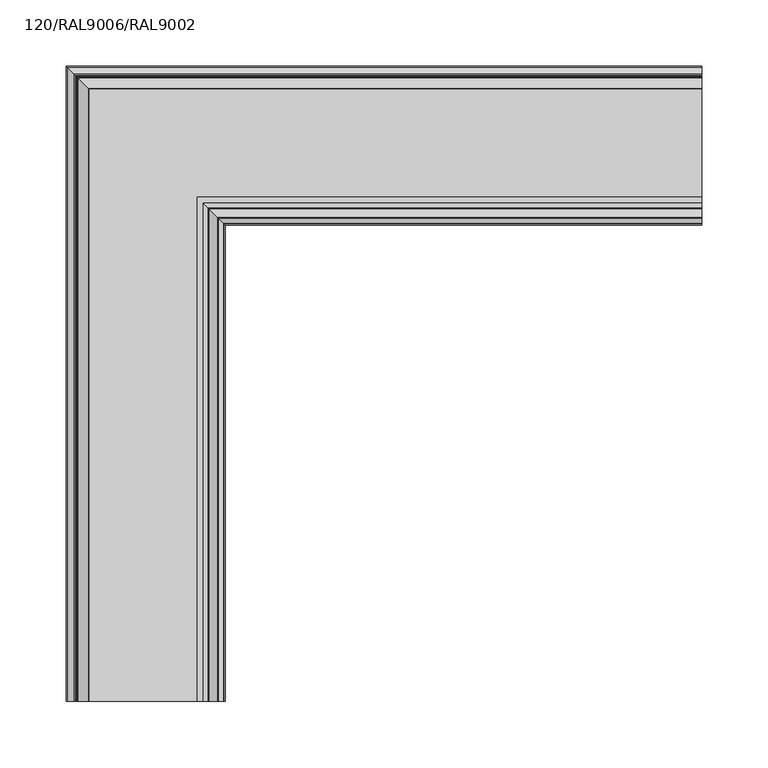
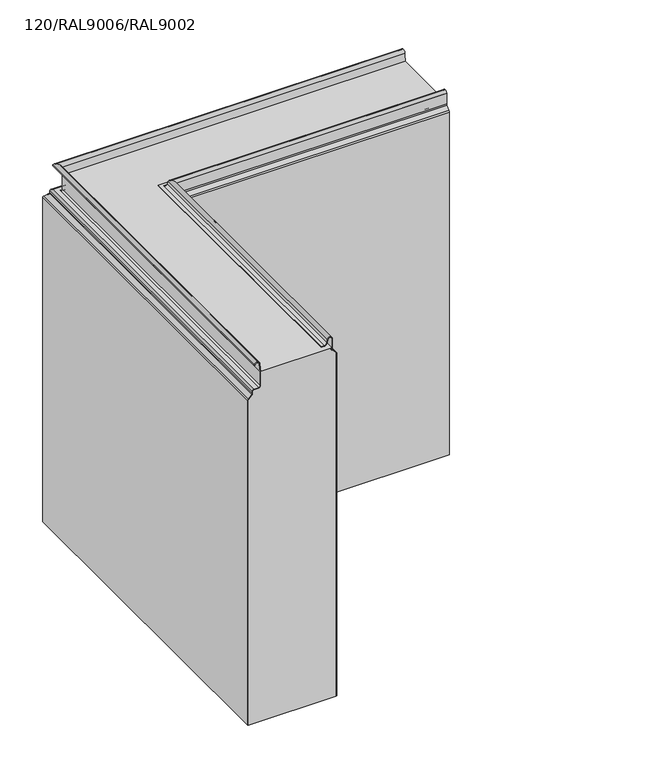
"""IFC4 building model written with IfcOpenShell, lengths in millimetres: plate geometry, TR_C_H_FHL_Corner_Tr_B_cut_TONGUE : 120/RAL9006/RAL9002."""

from ifc_helpers import new_model, si_unit, frame, origin, place, context, project, spatial, polyline, circle_curve, ellipse_curve, source, transform, mapped, element, save
from ifc_brep_helpers import plane_surface, cylinder_surface, revolved_surface, advanced_brep


def plate_120_ral9006_ral9002_39290fb2(model_context):
    return source(origin(), model_context, "Body", "AdvancedBrep", [
        advanced_brep(
        [(240.0, -17.4455763, 500.0), (240.0, -113.2, 500.0), (240.0, -113.2, 498.1), (240.0, -114.1665476, 495.7665476), (240.0, -118.5556349, 491.3774603), (240.0, -119.2, 489.8218254), (240.0, -119.2, 0.0), (240.0, -0.8, 0.0), (240.0, -0.8, 463.4370797), (240.0, -1.3564971, 464.7805826), (240.0, -6.179899, 469.6039845), (240.0, -7.0, 471.5838835), (240.0, -7.0, 474.4), (240.0, -8.9, 476.3), (240.0, -14.8, 476.3), (240.0, -17.6, 479.1), (240.0, -17.6, 498.2349288), (-222.5544237, -17.4455763, 500.0), (-222.5544237, -480.0, 500.0), (-126.8, -480.0, 500.0), (-126.8, -113.2, 500.0), (-222.4, -480.0, 498.2349288), (-222.4, -480.0, 479.1), (-225.2, -480.0, 476.3), (-231.1, -480.0, 476.3), (-233.0, -480.0, 474.4), (-233.0, -480.0, 471.5838835), (-233.820101, -480.0, 469.6039845), (-238.6435029, -480.0, 464.7805826), (-239.2, -480.0, 463.4370797), (-239.2, -480.0, 0.0), (-120.8, -480.0, 0.0), (-120.8, -480.0, 489.8218254), (-121.4443651, -480.0, 491.3774603), (-125.8334524, -480.0, 495.7665476), (-126.8, -480.0, 498.1), (-126.8, -113.2, 498.1), (-125.8334524, -114.1665476, 495.7665476), (-121.4443651, -118.5556349, 491.3774603), (-120.8, -119.2, 489.8218254), (-239.2, -0.8, 463.4370797), (-238.6435029, -1.3564971, 464.7805826), (-233.820101, -6.179899, 469.6039845), (-233.0, -7.0, 471.5838835), (-233.0, -7.0, 474.4), (-231.1, -8.9, 476.3), (-225.2, -14.8, 476.3), (-222.4, -17.6, 479.1), (-222.4, -17.6, 498.2349288), (-120.8, -119.2, 0.0), (-239.2, -0.8, 0.0)],
        [
            (0, 1),
            (1, 2),
            (2, 3, circle_curve(frame((240.0, -116.5, 498.1), z_axis=(-1.0, 0.0, 0.0), x_axis=(0.0, -1.0, 0.0)), 3.3)),
            (3, 4),
            (4, 5, circle_curve(frame((240.0, -117.0, 489.8218254), z_axis=(1.0, 0.0, 0.0), x_axis=(0.0, -1.0, 0.0)), 2.2)),
            (5, 6),
            (6, 7),
            (7, 8),
            (8, 9, circle_curve(frame((240.0, -2.7, 463.4370797), z_axis=(1.0, 0.0, 0.0), x_axis=(0.0, -1.0, 0.0)), 1.9)),
            (9, 10),
            (10, 11, circle_curve(frame((240.0, -4.2, 471.5838835), z_axis=(-1.0, 0.0, 0.0), x_axis=(0.0, -1.0, 0.0)), 2.8)),
            (11, 12),
            (12, 13, circle_curve(frame((240.0, -8.9, 474.4), z_axis=(1.0, 0.0, 0.0), x_axis=(0.0, -1.0, 0.0)), 1.9)),
            (13, 14),
            (14, 15, circle_curve(frame((240.0, -14.8, 479.1), z_axis=(-1.0, 0.0, 0.0), x_axis=(0.0, -1.0, 0.0)), 2.8)),
            (15, 16),
            (16, 0),
            (0, 17),
            (17, 18),
            (18, 19),
            (19, 20),
            (20, 1),
            (18, 21),
            (21, 22),
            (22, 23, circle_curve(frame((-225.2, -480.0, 479.1), z_axis=(0.0, 1.0, 0.0), x_axis=(1.0, 0.0, 0.0)), 2.8)),
            (23, 24),
            (24, 25, circle_curve(frame((-231.1, -480.0, 474.4), z_axis=(0.0, -1.0, 0.0), x_axis=(1.0, 0.0, 0.0)), 1.9)),
            (25, 26),
            (26, 27, circle_curve(frame((-235.8, -480.0, 471.5838835), z_axis=(0.0, 1.0, 0.0), x_axis=(1.0, 0.0, 0.0)), 2.8)),
            (27, 28),
            (28, 29, circle_curve(frame((-237.3, -480.0, 463.4370797), z_axis=(0.0, -1.0, 0.0), x_axis=(1.0, 0.0, 0.0)), 1.9)),
            (29, 30),
            (30, 31),
            (31, 32),
            (32, 33, circle_curve(frame((-123.0, -480.0, 489.8218254), z_axis=(0.0, -1.0, 0.0), x_axis=(1.0, 0.0, 0.0)), 2.2)),
            (33, 34),
            (34, 35, circle_curve(frame((-123.5, -480.0, 498.1), z_axis=(0.0, 1.0, 0.0), x_axis=(1.0, 0.0, 0.0)), 3.3)),
            (35, 19),
            (20, 36),
            (36, 2),
            (36, 37, ellipse_curve(frame((-123.5, -116.5, 498.1), z_axis=(-0.7071067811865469, -0.7071067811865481, 0.0), x_axis=(-0.7071067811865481, 0.7071067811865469, 0.0)), 4.6669048, 3.3)),
            (37, 3),
            (37, 38),
            (38, 4),
            (38, 39, ellipse_curve(frame((-123.0, -117.0, 489.8218254), z_axis=(0.7071067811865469, 0.7071067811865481, 0.0), x_axis=(0.7071067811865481, -0.7071067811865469, 0.0)), 3.1112698, 2.2)),
            (39, 5),
            (8, 40),
            (40, 41, ellipse_curve(frame((-237.3, -2.7, 463.4370797), z_axis=(0.7071067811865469, 0.7071067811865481, 0.0), x_axis=(0.7071067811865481, -0.7071067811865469, 0.0)), 2.6870058, 1.9)),
            (41, 9),
            (41, 42),
            (42, 10),
            (42, 43, ellipse_curve(frame((-235.8, -4.2, 471.5838835), z_axis=(-0.7071067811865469, -0.7071067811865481, 0.0), x_axis=(-0.7071067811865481, 0.7071067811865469, 0.0)), 3.959798, 2.8)),
            (43, 11),
            (43, 44),
            (44, 12),
            (44, 45, ellipse_curve(frame((-231.1, -8.9, 474.4), z_axis=(0.7071067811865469, 0.7071067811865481, 0.0), x_axis=(0.7071067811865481, -0.7071067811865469, 0.0)), 2.6870058, 1.9)),
            (45, 13),
            (45, 24),
            (23, 46),
            (46, 14),
            (46, 47, ellipse_curve(frame((-225.2, -14.8, 479.1), z_axis=(-0.7071067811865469, -0.7071067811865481, 0.0), x_axis=(-0.7071067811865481, 0.7071067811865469, 0.0)), 3.959798, 2.8)),
            (47, 15),
            (47, 48),
            (48, 16),
            (48, 17),
            (35, 36),
            (34, 37),
            (33, 38),
            (32, 39),
            (28, 41),
            (40, 29),
            (27, 42),
            (26, 43),
            (25, 44),
            (22, 47),
            (21, 48),
            (39, 49),
            (49, 6),
            (7, 50),
            (50, 40),
            (31, 49),
            (50, 30),
        ],
        [
            plane_surface(frame((240.0, 0.0, 0.0), z_axis=(1.0, 0.0, 0.0), x_axis=(0.0, 0.0, 1.0))),
            plane_surface(frame((240.0, -17.4455763, 500.0), z_axis=(0.0, 0.0, 1.0), x_axis=(-1.0, 0.0, 0.0))),
            plane_surface(frame((-240.0, -480.0, 0.0), z_axis=(0.0, -1.0, 0.0), x_axis=(0.0, 0.0, 1.0))),
            plane_surface(frame((240.0, -113.2, 500.0), z_axis=(0.0, -1.0, 0.0), x_axis=(-1.0, 0.0, 0.0))),
            revolved_surface(polyline([(-126.80000003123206, -119.8, 498.1), (240.0, -119.8, 498.1)]), (240.0, -116.5, 498.1), (-1.0, 0.0, 0.0)),
            plane_surface(frame((240.0, -114.1665476, 495.7665476), z_axis=(0.0, -0.7071067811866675, 0.7071067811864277), x_axis=(-1.0, 0.0, 0.0))),
            cylinder_surface(frame((240.0, -117.0, 489.8218254), z_axis=(1.0, 0.0, 0.0), x_axis=(0.0, -1.0, 0.0)), 2.2),
            cylinder_surface(frame((240.0, -2.7, 463.4370797), z_axis=(1.0, 0.0, 0.0), x_axis=(0.0, -1.0, 0.0)), 1.9),
            plane_surface(frame((240.0, -1.3564971, 464.7805826), z_axis=(0.0, 0.7071067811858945, 0.7071067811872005), x_axis=(-1.0, 0.0, 0.0))),
            revolved_surface(polyline([(-238.60000001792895, -7.0, 471.5838835), (240.0, -7.0, 471.5838835)]), (240.0, -4.2, 471.5838835), (-1.0, 0.0, 0.0)),
            plane_surface(frame((240.0, -7.0, 471.5838835), z_axis=(0.0, 1.0, 0.0), x_axis=(-1.0, 0.0, 0.0))),
            cylinder_surface(frame((240.0, -8.9, 474.4), z_axis=(1.0, 0.0, 0.0), x_axis=(0.0, -1.0, 0.0)), 1.9),
            plane_surface(frame((240.0, -8.9, 476.3), z_axis=(0.0, 0.0, 1.0), x_axis=(-1.0, 0.0, 0.0))),
            revolved_surface(polyline([(-228.00000001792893, -17.6, 479.1), (240.0, -17.6, 479.1)]), (240.0, -14.8, 479.1), (-1.0, 0.0, 0.0)),
            plane_surface(frame((240.0, -17.6, 479.1), z_axis=(0.0, 1.0, 0.0), x_axis=(-1.0, 0.0, 0.0))),
            plane_surface(frame((240.0, -17.6, 498.2349288), z_axis=(0.0, 0.9961946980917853, -0.08715574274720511), x_axis=(-1.0, 0.0, 0.0))),
            plane_surface(frame((-126.8, -113.2, 500.0), z_axis=(1.0, 0.0, 0.0), x_axis=(0.0, -1.0, 0.0))),
            revolved_surface(polyline([(-120.2, -480.0, 498.1), (-120.2, -113.19999996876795, 498.1)]), (-123.5, 0.0, 498.1), (0.0, -1.0, 0.0)),
            plane_surface(frame((-125.8334524, -114.1665476, 495.7665476), z_axis=(0.7071067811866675, 0.0, 0.7071067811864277), x_axis=(0.0, -1.0, 0.0))),
            cylinder_surface(frame((-123.0, 0.0, 489.8218254), z_axis=(0.0, 1.0, 0.0), x_axis=(1.0, 0.0, 0.0)), 2.2),
            cylinder_surface(frame((-237.3, 0.0, 463.4370797), z_axis=(0.0, 1.0, 0.0), x_axis=(1.0, 0.0, 0.0)), 1.9),
            plane_surface(frame((-238.6435029, -1.3564971, 464.7805826), z_axis=(-0.7071067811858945, 0.0, 0.7071067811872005), x_axis=(0.0, -1.0, 0.0))),
            revolved_surface(polyline([(-233.0, -480.0, 471.5838835), (-233.0, -1.399999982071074, 471.5838835)]), (-235.8, 0.0, 471.5838835), (0.0, -1.0, 0.0)),
            plane_surface(frame((-233.0, -7.0, 471.5838835), z_axis=(-1.0, 0.0, 0.0), x_axis=(0.0, -1.0, 0.0))),
            cylinder_surface(frame((-231.1, 0.0, 474.4), z_axis=(0.0, 1.0, 0.0), x_axis=(1.0, 0.0, 0.0)), 1.9),
            revolved_surface(polyline([(-222.39999999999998, -480.0, 479.1), (-222.39999999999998, -11.999999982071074, 479.1)]), (-225.2, 0.0, 479.1), (0.0, -1.0, 0.0)),
            plane_surface(frame((-222.4, -17.6, 479.1), z_axis=(-1.0, 0.0, 0.0), x_axis=(0.0, -1.0, 0.0))),
            plane_surface(frame((-222.4, -17.6, 498.2349288), z_axis=(-0.9961946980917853, 0.0, -0.08715574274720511), x_axis=(0.0, -1.0, 0.0))),
            plane_surface(frame((240.0, -119.2, 489.8218254), z_axis=(0.0, -1.0, 0.0), x_axis=(-1.0, 0.0, 0.0))),
            plane_surface(frame((240.0, -0.8, -484.0006516), z_axis=(0.0, 1.0, 0.0), x_axis=(-1.0, 0.0, 0.0))),
            plane_surface(frame((-120.8, -119.2, 489.8218254), z_axis=(1.0, 0.0, 0.0), x_axis=(0.0, -1.0, 0.0))),
            plane_surface(frame((-239.2, -0.8, -484.0006516), z_axis=(-1.0, 0.0, 0.0), x_axis=(0.0, -1.0, 0.0))),
            plane_surface(frame((240.0, 0.0, 0.0), z_axis=(0.0, 0.0, -1.0), x_axis=(-1.0, 0.0, 0.0))),
        ],
        [
            (0, [[1, 2, 3, 4, 5, 6, 7, 8, 9, 10, 11, 12, 13, 14, 15, 16, 17]]),
            (1, [[-1, 18, 19, 20, 21, 22]]),
            (2, [[-20, 23, 24, 25, 26, 27, 28, 29, 30, 31, 32, 33, 34, 35, 36, 37, 38]]),
            (3, [[-2, -22, 39, 40]]),
            (4, [[-3, -40, 41, 42]]),
            (5, [[-4, -42, 43, 44]]),
            (6, [[-5, -44, 45, 46]]),
            (7, [[-9, 47, 48, 49]]),
            (8, [[-10, -49, 50, 51]]),
            (9, [[-11, -51, 52, 53]]),
            (10, [[-12, -53, 54, 55]]),
            (11, [[-13, -55, 56, 57]]),
            (12, [[-14, -57, 58, -26, 59, 60]]),
            (13, [[-15, -60, 61, 62]]),
            (14, [[-16, -62, 63, 64]]),
            (15, [[-17, -64, 65, -18]]),
            (16, [[-21, -38, 66, -39]]),
            (17, [[-37, 67, -41, -66]]),
            (18, [[-36, 68, -43, -67]]),
            (19, [[-35, 69, -45, -68]]),
            (20, [[-31, 70, -48, 71]]),
            (21, [[-30, 72, -50, -70]]),
            (22, [[-29, 73, -52, -72]]),
            (23, [[-28, 74, -54, -73]]),
            (24, [[-27, -58, -56, -74]]),
            (25, [[-25, 75, -61, -59]]),
            (26, [[-24, 76, -63, -75]]),
            (27, [[-19, -65, -76, -23]]),
            (28, [[-46, 77, 78, -6]]),
            (29, [[-47, -8, 79, 80]]),
            (30, [[-69, -34, 81, -77]]),
            (31, [[-71, -80, 82, -32]]),
            (32, [[-7, -78, -81, -33, -82, -79]]),
        ],
    ),
        advanced_brep(
        [(240.0, 0.0, 463.4370797), (240.0, -0.7908117, 465.346268), (240.0, -5.6142136, 470.1696699), (240.0, -6.2, 471.5838835), (240.0, -6.2, 474.4), (240.0, -8.9, 477.1), (240.0, -14.8, 477.1), (240.0, -16.8, 479.1), (240.0, -16.8, 498.2), (240.0, -15.7082379, 510.6788984), (240.0, -9.4947554, 511.4418181), (240.0, -9.1851412, 510.5426332), (240.0, -8.4287263, 510.8030877), (240.0, -8.7383405, 511.7022726), (240.0, -16.5051936, 510.748623), (240.0, -17.6, 498.2349288), (240.0, -17.6, 479.1), (240.0, -14.8, 476.3), (240.0, -8.9, 476.3), (240.0, -7.0, 474.4), (240.0, -7.0, 471.5838835), (240.0, -6.179899, 469.6039845), (240.0, -1.3564971, 464.7805826), (240.0, -0.8, 463.4370797), (240.0, -0.8, 0.0), (240.0, 0.0, 0.0), (-239.2, -480.0, 463.4370797), (-238.6435029, -480.0, 464.7805826), (-233.820101, -480.0, 469.6039845), (-233.0, -480.0, 471.5838835), (-233.0, -480.0, 474.4), (-231.1, -480.0, 476.3), (-225.2, -480.0, 476.3), (-222.4, -480.0, 479.1), (-222.4, -480.0, 498.2349288), (-223.4948064, -480.0, 510.748623), (-231.2616595, -480.0, 511.7022726), (-231.5712737, -480.0, 510.8030877), (-230.8148588, -480.0, 510.5426332), (-230.5052446, -480.0, 511.4418181), (-224.2917621, -480.0, 510.6788984), (-223.2, -480.0, 498.2), (-223.2, -480.0, 479.1), (-225.2, -480.0, 477.1), (-231.1, -480.0, 477.1), (-233.8, -480.0, 474.4), (-233.8, -480.0, 471.5838835), (-234.3857864, -480.0, 470.1696699), (-239.2091883, -480.0, 465.346268), (-240.0, -480.0, 463.4370797), (-240.0, -480.0, 0.0), (-239.2, -480.0, 0.0), (-240.0, 0.0, 463.4370797), (-239.2091883, -0.7908117, 465.346268), (-234.3857864, -5.6142136, 470.1696699), (-233.8, -6.2, 471.5838835), (-233.8, -6.2, 474.4), (-231.1, -8.9, 477.1), (-225.2, -14.8, 477.1), (-223.2, -16.8, 479.1), (-223.2, -16.8, 498.2), (-224.2917621, -15.7082379, 510.6788984), (-230.5052446, -9.4947554, 511.4418181), (-230.8148588, -9.1851412, 510.5426332), (-231.5712737, -8.4287263, 510.8030877), (-231.2616595, -8.7383405, 511.7022726), (-223.4948064, -16.5051936, 510.748623), (-222.4, -17.6, 498.2349288), (-222.4, -17.6, 479.1), (-225.2, -14.8, 476.3), (-231.1, -8.9, 476.3), (-233.0, -7.0, 474.4), (-233.0, -7.0, 471.5838835), (-233.820101, -6.179899, 469.6039845), (-238.6435029, -1.3564971, 464.7805826), (-239.2, -0.8, 463.4370797), (-239.2, -0.8, 0.0), (-240.0, 0.0, 0.0)],
        [
            (0, 1, circle_curve(frame((240.0, -2.7, 463.4370797), z_axis=(1.0, 0.0, 0.0), x_axis=(0.0, -1.0, 0.0)), 2.7)),
            (1, 2),
            (2, 3, circle_curve(frame((240.0, -4.2, 471.5838835), z_axis=(-1.0, 0.0, 0.0), x_axis=(0.0, -1.0, 0.0)), 2.0)),
            (3, 4),
            (4, 5, circle_curve(frame((240.0, -8.9, 474.4), z_axis=(1.0, 0.0, 0.0), x_axis=(0.0, -1.0, 0.0)), 2.7)),
            (5, 6),
            (6, 7, circle_curve(frame((240.0, -14.8, 479.1), z_axis=(-1.0, 0.0, 0.0), x_axis=(0.0, -1.0, 0.0)), 2.0)),
            (7, 8),
            (8, 9),
            (9, 10, circle_curve(frame((240.0, -12.5204148, 510.4), z_axis=(-1.0, 0.0, 0.0), x_axis=(0.0, -1.0, 0.0)), 3.2)),
            (10, 11),
            (11, 12),
            (12, 13),
            (13, 14, circle_curve(frame((240.0, -12.5204148, 510.4), z_axis=(1.0, 0.0, 0.0), x_axis=(0.0, -1.0, 0.0)), 4.0)),
            (14, 15),
            (15, 16),
            (16, 17, circle_curve(frame((240.0, -14.8, 479.1), z_axis=(1.0, 0.0, 0.0), x_axis=(0.0, -1.0, 0.0)), 2.8)),
            (17, 18),
            (18, 19, circle_curve(frame((240.0, -8.9, 474.4), z_axis=(-1.0, 0.0, 0.0), x_axis=(0.0, -1.0, 0.0)), 1.9)),
            (19, 20),
            (20, 21, circle_curve(frame((240.0, -4.2, 471.5838835), z_axis=(1.0, 0.0, 0.0), x_axis=(0.0, -1.0, 0.0)), 2.8)),
            (21, 22),
            (22, 23, circle_curve(frame((240.0, -2.7, 463.4370797), z_axis=(-1.0, 0.0, 0.0), x_axis=(0.0, -1.0, 0.0)), 1.9)),
            (23, 24),
            (24, 25),
            (25, 0),
            (26, 27, circle_curve(frame((-237.3, -480.0, 463.4370797), z_axis=(0.0, 1.0, 0.0), x_axis=(1.0, 0.0, 0.0)), 1.9)),
            (27, 28),
            (28, 29, circle_curve(frame((-235.8, -480.0, 471.5838835), z_axis=(0.0, -1.0, 0.0), x_axis=(1.0, 0.0, 0.0)), 2.8)),
            (29, 30),
            (30, 31, circle_curve(frame((-231.1, -480.0, 474.4), z_axis=(0.0, 1.0, 0.0), x_axis=(1.0, 0.0, 0.0)), 1.9)),
            (31, 32),
            (32, 33, circle_curve(frame((-225.2, -480.0, 479.1), z_axis=(0.0, -1.0, 0.0), x_axis=(1.0, 0.0, 0.0)), 2.8)),
            (33, 34),
            (34, 35),
            (35, 36, circle_curve(frame((-227.4795852, -480.0, 510.4), z_axis=(0.0, -1.0, 0.0), x_axis=(1.0, 0.0, 0.0)), 4.0)),
            (36, 37),
            (37, 38),
            (38, 39),
            (39, 40, circle_curve(frame((-227.4795852, -480.0, 510.4), z_axis=(0.0, 1.0, 0.0), x_axis=(1.0, 0.0, 0.0)), 3.2)),
            (40, 41),
            (41, 42),
            (42, 43, circle_curve(frame((-225.2, -480.0, 479.1), z_axis=(0.0, 1.0, 0.0), x_axis=(1.0, 0.0, 0.0)), 2.0)),
            (43, 44),
            (44, 45, circle_curve(frame((-231.1, -480.0, 474.4), z_axis=(0.0, -1.0, 0.0), x_axis=(1.0, 0.0, 0.0)), 2.7)),
            (45, 46),
            (46, 47, circle_curve(frame((-235.8, -480.0, 471.5838835), z_axis=(0.0, 1.0, 0.0), x_axis=(1.0, 0.0, 0.0)), 2.0)),
            (47, 48),
            (48, 49, circle_curve(frame((-237.3, -480.0, 463.4370797), z_axis=(0.0, -1.0, 0.0), x_axis=(1.0, 0.0, 0.0)), 2.7)),
            (49, 50),
            (50, 51),
            (51, 26),
            (0, 52),
            (52, 53, ellipse_curve(frame((-237.3, -2.7, 463.4370797), z_axis=(0.7071067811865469, 0.7071067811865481, 0.0), x_axis=(0.7071067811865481, -0.7071067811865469, 0.0)), 3.8183766, 2.7)),
            (53, 1),
            (53, 54),
            (54, 2),
            (54, 55, ellipse_curve(frame((-235.8, -4.2, 471.5838835), z_axis=(-0.7071067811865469, -0.7071067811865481, 0.0), x_axis=(-0.7071067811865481, 0.7071067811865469, 0.0)), 2.8284271, 2.0)),
            (55, 3),
            (55, 56),
            (56, 4),
            (56, 57, ellipse_curve(frame((-231.1, -8.9, 474.4), z_axis=(0.7071067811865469, 0.7071067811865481, 0.0), x_axis=(0.7071067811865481, -0.7071067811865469, 0.0)), 3.8183766, 2.7)),
            (57, 5),
            (57, 44),
            (43, 58),
            (58, 6),
            (58, 59, ellipse_curve(frame((-225.2, -14.8, 479.1), z_axis=(-0.7071067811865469, -0.7071067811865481, 0.0), x_axis=(-0.7071067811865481, 0.7071067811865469, 0.0)), 2.8284271, 2.0)),
            (59, 7),
            (59, 60),
            (60, 8),
            (60, 61),
            (61, 9),
            (61, 62, ellipse_curve(frame((-227.4795852, -12.5204148, 510.4), z_axis=(-0.7071067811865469, -0.7071067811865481, 0.0), x_axis=(-0.7071067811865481, 0.7071067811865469, 0.0)), 4.5254834, 3.2)),
            (62, 10),
            (62, 63),
            (63, 11),
            (63, 64),
            (64, 12),
            (64, 65),
            (65, 13),
            (65, 66, ellipse_curve(frame((-227.4795852, -12.5204148, 510.4), z_axis=(0.7071067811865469, 0.7071067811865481, 0.0), x_axis=(0.7071067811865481, -0.7071067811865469, 0.0)), 5.6568542, 4.0)),
            (66, 14),
            (66, 67),
            (67, 15),
            (67, 68),
            (68, 16),
            (68, 69, ellipse_curve(frame((-225.2, -14.8, 479.1), z_axis=(0.7071067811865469, 0.7071067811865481, 0.0), x_axis=(0.7071067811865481, -0.7071067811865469, 0.0)), 3.959798, 2.8)),
            (69, 17),
            (69, 32),
            (31, 70),
            (70, 18),
            (70, 71, ellipse_curve(frame((-231.1, -8.9, 474.4), z_axis=(-0.7071067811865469, -0.7071067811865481, 0.0), x_axis=(-0.7071067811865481, 0.7071067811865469, 0.0)), 2.6870058, 1.9)),
            (71, 19),
            (71, 72),
            (72, 20),
            (72, 73, ellipse_curve(frame((-235.8, -4.2, 471.5838835), z_axis=(0.7071067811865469, 0.7071067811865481, 0.0), x_axis=(0.7071067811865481, -0.7071067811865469, 0.0)), 3.959798, 2.8)),
            (73, 21),
            (73, 74),
            (74, 22),
            (74, 75, ellipse_curve(frame((-237.3, -2.7, 463.4370797), z_axis=(-0.7071067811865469, -0.7071067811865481, 0.0), x_axis=(-0.7071067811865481, 0.7071067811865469, 0.0)), 2.6870058, 1.9)),
            (75, 23),
            (48, 53),
            (52, 49),
            (47, 54),
            (46, 55),
            (45, 56),
            (42, 59),
            (41, 60),
            (40, 61),
            (39, 62),
            (38, 63),
            (37, 64),
            (36, 65),
            (35, 66),
            (34, 67),
            (33, 68),
            (30, 71),
            (29, 72),
            (28, 73),
            (27, 74),
            (26, 75),
            (75, 76),
            (76, 24),
            (25, 77),
            (77, 52),
            (51, 76),
            (77, 50),
        ],
        [
            plane_surface(frame((240.0, 0.0, 0.0), z_axis=(1.0, 0.0, 0.0), x_axis=(0.0, 0.0, 1.0))),
            plane_surface(frame((-240.0, -480.0, 0.0), z_axis=(0.0, -1.0, 0.0), x_axis=(0.0, 0.0, 1.0))),
            cylinder_surface(frame((240.0, -2.7, 463.4370797), z_axis=(1.0, 0.0, 0.0), x_axis=(0.0, -1.0, 0.0)), 2.7),
            plane_surface(frame((240.0, -0.7908117, 465.346268), z_axis=(0.0, 0.7071067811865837, 0.7071067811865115), x_axis=(-1.0, 0.0, 0.0))),
            revolved_surface(polyline([(-237.7999999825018, -6.2, 471.5838835), (240.0, -6.2, 471.5838835)]), (240.0, -4.2, 471.5838835), (-1.0, 0.0, 0.0)),
            plane_surface(frame((240.0, -6.2, 471.5838835), z_axis=(0.0, 1.0, 0.0), x_axis=(-1.0, 0.0, 0.0))),
            cylinder_surface(frame((240.0, -8.9, 474.4), z_axis=(1.0, 0.0, 0.0), x_axis=(0.0, -1.0, 0.0)), 2.7),
            plane_surface(frame((240.0, -8.9, 477.1), z_axis=(0.0, 0.0, 1.0), x_axis=(-1.0, 0.0, 0.0))),
            revolved_surface(polyline([(-227.19999998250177, -16.8, 479.1), (240.0, -16.8, 479.1)]), (240.0, -14.8, 479.1), (-1.0, 0.0, 0.0)),
            plane_surface(frame((240.0, -16.8, 479.1), z_axis=(0.0, 1.0, 0.0), x_axis=(-1.0, 0.0, 0.0))),
            plane_surface(frame((240.0, -16.8, 498.2), z_axis=(0.0, 0.996194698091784, -0.08715574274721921), x_axis=(-1.0, 0.0, 0.0))),
            revolved_surface(polyline([(-230.67958520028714, -15.7204148, 510.4), (240.0, -15.7204148, 510.4)]), (240.0, -12.5204148, 510.4), (-1.0, 0.0, 0.0)),
            plane_surface(frame((240.0, -9.4947554, 511.4418181), z_axis=(0.0, -0.9455185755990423, -0.3255681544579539), x_axis=(-1.0, 0.0, 0.0))),
            plane_surface(frame((240.0, -9.1851412, 510.5426332), z_axis=(0.0, 0.32556815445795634, -0.9455185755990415), x_axis=(-1.0, 0.0, 0.0))),
            plane_surface(frame((240.0, -8.4287263, 510.8030877), z_axis=(0.0, 0.9455185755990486, 0.32556815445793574), x_axis=(-1.0, 0.0, 0.0))),
            cylinder_surface(frame((240.0, -12.5204148, 510.4), z_axis=(1.0, 0.0, 0.0), x_axis=(0.0, -1.0, 0.0)), 4.0),
            plane_surface(frame((240.0, -16.5051936, 510.748623), z_axis=(0.0, -0.9961946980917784, 0.087155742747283), x_axis=(-1.0, 0.0, 0.0))),
            plane_surface(frame((240.0, -17.6, 498.2349288), z_axis=(0.0, -1.0, 0.0), x_axis=(-1.0, 0.0, 0.0))),
            cylinder_surface(frame((240.0, -14.8, 479.1), z_axis=(1.0, 0.0, 0.0), x_axis=(0.0, -1.0, 0.0)), 2.8),
            plane_surface(frame((240.0, -14.8, 476.3), z_axis=(0.0, 0.0, -1.0), x_axis=(-1.0, 0.0, 0.0))),
            revolved_surface(polyline([(-233.0000000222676, -10.8, 474.4), (240.0, -10.8, 474.4)]), (240.0, -8.9, 474.4), (-1.0, 0.0, 0.0)),
            plane_surface(frame((240.0, -7.0, 474.4), z_axis=(0.0, -1.0, 0.0), x_axis=(-1.0, 0.0, 0.0))),
            cylinder_surface(frame((240.0, -4.2, 471.5838835), z_axis=(1.0, 0.0, 0.0), x_axis=(0.0, -1.0, 0.0)), 2.8),
            plane_surface(frame((240.0, -6.179899, 469.6039845), z_axis=(0.0, -0.707106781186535, -0.7071067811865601), x_axis=(-1.0, 0.0, 0.0))),
            revolved_surface(polyline([(-239.2000000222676, -4.6, 463.4370797), (240.0, -4.6, 463.4370797)]), (240.0, -2.7, 463.4370797), (-1.0, 0.0, 0.0)),
            cylinder_surface(frame((-237.3, 0.0, 463.4370797), z_axis=(0.0, 1.0, 0.0), x_axis=(1.0, 0.0, 0.0)), 2.7),
            plane_surface(frame((-239.2091883, -0.7908117, 465.346268), z_axis=(-0.7071067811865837, 0.0, 0.7071067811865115), x_axis=(0.0, -1.0, 0.0))),
            revolved_surface(polyline([(-233.8, -480.0, 471.5838835), (-233.8, -2.200000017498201, 471.5838835)]), (-235.8, 0.0, 471.5838835), (0.0, -1.0, 0.0)),
            plane_surface(frame((-233.8, -6.2, 471.5838835), z_axis=(-1.0, 0.0, 0.0), x_axis=(0.0, -1.0, 0.0))),
            cylinder_surface(frame((-231.1, 0.0, 474.4), z_axis=(0.0, 1.0, 0.0), x_axis=(1.0, 0.0, 0.0)), 2.7),
            revolved_surface(polyline([(-223.2, -480.0, 479.1), (-223.2, -12.800000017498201, 479.1)]), (-225.2, 0.0, 479.1), (0.0, -1.0, 0.0)),
            plane_surface(frame((-223.2, -16.8, 479.1), z_axis=(-1.0, 0.0, 0.0), x_axis=(0.0, -1.0, 0.0))),
            plane_surface(frame((-223.2, -16.8, 498.2), z_axis=(-0.996194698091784, 0.0, -0.08715574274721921), x_axis=(0.0, -1.0, 0.0))),
            revolved_surface(polyline([(-224.2795852, -480.0, 510.4), (-224.2795852, -9.32041479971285, 510.4)]), (-227.4795852, 0.0, 510.4), (0.0, -1.0, 0.0)),
            plane_surface(frame((-230.5052446, -9.4947554, 511.4418181), z_axis=(0.9455185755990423, 0.0, -0.3255681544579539), x_axis=(0.0, -1.0, 0.0))),
            plane_surface(frame((-230.8148588, -9.1851412, 510.5426332), z_axis=(-0.32556815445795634, 0.0, -0.9455185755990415), x_axis=(0.0, -1.0, 0.0))),
            plane_surface(frame((-231.5712737, -8.4287263, 510.8030877), z_axis=(-0.9455185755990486, 0.0, 0.32556815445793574), x_axis=(0.0, -1.0, 0.0))),
            cylinder_surface(frame((-227.4795852, 0.0, 510.4), z_axis=(0.0, 1.0, 0.0), x_axis=(1.0, 0.0, 0.0)), 4.0),
            plane_surface(frame((-223.4948064, -16.5051936, 510.748623), z_axis=(0.9961946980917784, 0.0, 0.087155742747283), x_axis=(0.0, -1.0, 0.0))),
            plane_surface(frame((-222.4, -17.6, 498.2349288), z_axis=(1.0, 0.0, 0.0), x_axis=(0.0, -1.0, 0.0))),
            cylinder_surface(frame((-225.2, 0.0, 479.1), z_axis=(0.0, 1.0, 0.0), x_axis=(1.0, 0.0, 0.0)), 2.8),
            revolved_surface(polyline([(-229.2, -480.0, 474.4), (-229.2, -6.9999999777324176, 474.4)]), (-231.1, 0.0, 474.4), (0.0, -1.0, 0.0)),
            plane_surface(frame((-233.0, -7.0, 474.4), z_axis=(1.0, 0.0, 0.0), x_axis=(0.0, -1.0, 0.0))),
            cylinder_surface(frame((-235.8, 0.0, 471.5838835), z_axis=(0.0, 1.0, 0.0), x_axis=(1.0, 0.0, 0.0)), 2.8),
            plane_surface(frame((-233.820101, -6.179899, 469.6039845), z_axis=(0.707106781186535, 0.0, -0.7071067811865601), x_axis=(0.0, -1.0, 0.0))),
            revolved_surface(polyline([(-235.4, -480.0, 463.4370797), (-235.4, -0.7999999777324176, 463.4370797)]), (-237.3, 0.0, 463.4370797), (0.0, -1.0, 0.0)),
            plane_surface(frame((240.0, -0.8, 463.4370797), z_axis=(0.0, -1.0, 0.0), x_axis=(-1.0, 0.0, 0.0))),
            plane_surface(frame((240.0, 0.0, -525.1006169), z_axis=(0.0, 1.0, 0.0), x_axis=(-1.0, 0.0, 0.0))),
            plane_surface(frame((-239.2, -0.8, 463.4370797), z_axis=(1.0, 0.0, 0.0), x_axis=(0.0, -1.0, 0.0))),
            plane_surface(frame((-240.0, 0.0, -525.1006169), z_axis=(-1.0, 0.0, 0.0), x_axis=(0.0, -1.0, 0.0))),
            plane_surface(frame((240.0, 0.0, 0.0), z_axis=(0.0, 0.0, -1.0), x_axis=(-1.0, 0.0, 0.0))),
        ],
        [
            (0, [[1, 2, 3, 4, 5, 6, 7, 8, 9, 10, 11, 12, 13, 14, 15, 16, 17, 18, 19, 20, 21, 22, 23, 24, 25, 26]]),
            (1, [[27, 28, 29, 30, 31, 32, 33, 34, 35, 36, 37, 38, 39, 40, 41, 42, 43, 44, 45, 46, 47, 48, 49, 50, 51, 52]]),
            (2, [[-1, 53, 54, 55]]),
            (3, [[-2, -55, 56, 57]]),
            (4, [[-3, -57, 58, 59]]),
            (5, [[-4, -59, 60, 61]]),
            (6, [[-5, -61, 62, 63]]),
            (7, [[-6, -63, 64, -44, 65, 66]]),
            (8, [[-7, -66, 67, 68]]),
            (9, [[-8, -68, 69, 70]]),
            (10, [[-9, -70, 71, 72]]),
            (11, [[-10, -72, 73, 74]]),
            (12, [[-11, -74, 75, 76]]),
            (13, [[-12, -76, 77, 78]]),
            (14, [[-13, -78, 79, 80]]),
            (15, [[-14, -80, 81, 82]]),
            (16, [[-15, -82, 83, 84]]),
            (17, [[-16, -84, 85, 86]]),
            (18, [[-17, -86, 87, 88]]),
            (19, [[-18, -88, 89, -32, 90, 91]]),
            (20, [[-19, -91, 92, 93]]),
            (21, [[-20, -93, 94, 95]]),
            (22, [[-21, -95, 96, 97]]),
            (23, [[-22, -97, 98, 99]]),
            (24, [[-23, -99, 100, 101]]),
            (25, [[-49, 102, -54, 103]]),
            (26, [[-48, 104, -56, -102]]),
            (27, [[-47, 105, -58, -104]]),
            (28, [[-46, 106, -60, -105]]),
            (29, [[-45, -64, -62, -106]]),
            (30, [[-43, 107, -67, -65]]),
            (31, [[-42, 108, -69, -107]]),
            (32, [[-41, 109, -71, -108]]),
            (33, [[-40, 110, -73, -109]]),
            (34, [[-39, 111, -75, -110]]),
            (35, [[-38, 112, -77, -111]]),
            (36, [[-37, 113, -79, -112]]),
            (37, [[-36, 114, -81, -113]]),
            (38, [[-35, 115, -83, -114]]),
            (39, [[-34, 116, -85, -115]]),
            (40, [[-33, -89, -87, -116]]),
            (41, [[-31, 117, -92, -90]]),
            (42, [[-30, 118, -94, -117]]),
            (43, [[-29, 119, -96, -118]]),
            (44, [[-28, 120, -98, -119]]),
            (45, [[-27, 121, -100, -120]]),
            (46, [[-101, 122, 123, -24]]),
            (47, [[-53, -26, 124, 125]]),
            (48, [[-121, -52, 126, -122]]),
            (49, [[-103, -125, 127, -50]]),
            (50, [[-25, -123, -126, -51, -127, -124]]),
        ],
    ),
        advanced_brep(
        [(240.0, -119.1213203, 491.9431458), (240.0, -120.0, 489.8218254), (240.0, -120.0, 0.0), (240.0, -119.2, 0.0), (240.0, -119.2, 489.8218254), (240.0, -118.5556349, 491.3774603), (240.0, -114.1665476, 495.7665476), (240.0, -113.2, 498.1), (240.0, -113.2, 512.85), (240.0, -108.337221, 513.275438), (240.0, -107.5939081, 509.0599008), (240.0, -103.1130328, 505.3), (240.0, -99.0, 505.3), (240.0, -99.0, 506.1), (240.0, -103.1130328, 506.1), (240.0, -106.8060618, 509.1988193), (240.0, -107.5493748, 513.4143566), (240.0, -114.0, 512.85), (240.0, -114.0, 498.1), (240.0, -114.732233, 496.332233), (-120.8786797, -480.0, 491.9431458), (-125.267767, -480.0, 496.332233), (-126.0, -480.0, 498.1), (-126.0, -480.0, 512.85), (-132.4506252, -480.0, 513.4143566), (-133.1939382, -480.0, 509.1988193), (-136.8869672, -480.0, 506.1), (-141.0, -480.0, 506.1), (-141.0, -480.0, 505.3), (-136.8869672, -480.0, 505.3), (-132.4060919, -480.0, 509.0599008), (-131.662779, -480.0, 513.275438), (-126.8, -480.0, 512.85), (-126.8, -480.0, 498.1), (-125.8334524, -480.0, 495.7665476), (-121.4443651, -480.0, 491.3774603), (-120.8, -480.0, 489.8218254), (-120.8, -480.0, 0.0), (-120.0, -480.0, 0.0), (-120.0, -480.0, 489.8218254), (-120.8, -119.2, 489.8218254), (-121.4443651, -118.5556349, 491.3774603), (-125.8334524, -114.1665476, 495.7665476), (-126.8, -113.2, 498.1), (-126.8, -113.2, 512.85), (-131.662779, -108.337221, 513.275438), (-132.4060919, -107.5939081, 509.0599008), (-136.8869672, -103.1130328, 505.3), (-141.0, -99.0, 505.3), (-141.0, -99.0, 506.1), (-136.8869672, -103.1130328, 506.1), (-133.1939382, -106.8060618, 509.1988193), (-132.4506252, -107.5493748, 513.4143566), (-126.0, -114.0, 512.85), (-126.0, -114.0, 498.1), (-125.267767, -114.732233, 496.332233), (-120.8786797, -119.1213203, 491.9431458), (-120.0, -120.0, 489.8218254), (-120.0, -120.0, 0.0), (-120.8, -119.2, 0.0)],
        [
            (0, 1, circle_curve(frame((240.0, -117.0, 489.8218254), z_axis=(1.0, 0.0, 0.0), x_axis=(0.0, -1.0, 0.0)), 3.0)),
            (1, 2),
            (2, 3),
            (3, 4),
            (4, 5, circle_curve(frame((240.0, -117.0, 489.8218254), z_axis=(-1.0, 0.0, 0.0), x_axis=(0.0, -1.0, 0.0)), 2.2)),
            (5, 6),
            (6, 7, circle_curve(frame((240.0, -116.5, 498.1), z_axis=(1.0, 0.0, 0.0), x_axis=(0.0, -1.0, 0.0)), 3.3)),
            (7, 8),
            (8, 9, circle_curve(frame((240.0, -110.75, 512.85), z_axis=(-1.0, 0.0, 0.0), x_axis=(0.0, -1.0, 0.0)), 2.45)),
            (9, 10),
            (10, 11, circle_curve(frame((240.0, -103.1130328, 509.85), z_axis=(1.0, 0.0, 0.0), x_axis=(0.0, -1.0, 0.0)), 4.55)),
            (11, 12),
            (12, 13),
            (13, 14),
            (14, 15, circle_curve(frame((240.0, -103.1130328, 509.85), z_axis=(-1.0, 0.0, 0.0), x_axis=(0.0, -1.0, 0.0)), 3.75)),
            (15, 16),
            (16, 17, circle_curve(frame((240.0, -110.75, 512.85), z_axis=(1.0, 0.0, 0.0), x_axis=(0.0, -1.0, 0.0)), 3.25)),
            (17, 18),
            (18, 19, circle_curve(frame((240.0, -116.5, 498.1), z_axis=(-1.0, 0.0, 0.0), x_axis=(0.0, -1.0, 0.0)), 2.5)),
            (19, 0),
            (20, 21),
            (21, 22, circle_curve(frame((-123.5, -480.0, 498.1), z_axis=(0.0, 1.0, 0.0), x_axis=(1.0, 0.0, 0.0)), 2.5)),
            (22, 23),
            (23, 24, circle_curve(frame((-129.25, -480.0, 512.85), z_axis=(0.0, -1.0, 0.0), x_axis=(1.0, 0.0, 0.0)), 3.25)),
            (24, 25),
            (25, 26, circle_curve(frame((-136.8869672, -480.0, 509.85), z_axis=(0.0, 1.0, 0.0), x_axis=(1.0, 0.0, 0.0)), 3.75)),
            (26, 27),
            (27, 28),
            (28, 29),
            (29, 30, circle_curve(frame((-136.8869672, -480.0, 509.85), z_axis=(0.0, -1.0, 0.0), x_axis=(1.0, 0.0, 0.0)), 4.55)),
            (30, 31),
            (31, 32, circle_curve(frame((-129.25, -480.0, 512.85), z_axis=(0.0, 1.0, 0.0), x_axis=(1.0, 0.0, 0.0)), 2.45)),
            (32, 33),
            (33, 34, circle_curve(frame((-123.5, -480.0, 498.1), z_axis=(0.0, -1.0, 0.0), x_axis=(1.0, 0.0, 0.0)), 3.3)),
            (34, 35),
            (35, 36, circle_curve(frame((-123.0, -480.0, 489.8218254), z_axis=(0.0, 1.0, 0.0), x_axis=(1.0, 0.0, 0.0)), 2.2)),
            (36, 37),
            (37, 38),
            (38, 39),
            (39, 20, circle_curve(frame((-123.0, -480.0, 489.8218254), z_axis=(0.0, -1.0, 0.0), x_axis=(1.0, 0.0, 0.0)), 3.0)),
            (4, 40),
            (40, 41, ellipse_curve(frame((-123.0, -117.0, 489.8218254), z_axis=(-0.7071067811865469, -0.7071067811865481, 0.0), x_axis=(-0.7071067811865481, 0.7071067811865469, 0.0)), 3.1112698, 2.2)),
            (41, 5),
            (41, 42),
            (42, 6),
            (42, 43, ellipse_curve(frame((-123.5, -116.5, 498.1), z_axis=(0.7071067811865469, 0.7071067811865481, 0.0), x_axis=(0.7071067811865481, -0.7071067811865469, 0.0)), 4.6669048, 3.3)),
            (43, 7),
            (43, 44),
            (44, 8),
            (44, 45, ellipse_curve(frame((-129.25, -110.75, 512.85), z_axis=(-0.7071067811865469, -0.7071067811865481, 0.0), x_axis=(-0.7071067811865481, 0.7071067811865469, 0.0)), 3.4648232, 2.45)),
            (45, 9),
            (45, 46),
            (46, 10),
            (46, 47, ellipse_curve(frame((-136.8869672, -103.1130328, 509.85), z_axis=(0.7071067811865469, 0.7071067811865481, 0.0), x_axis=(0.7071067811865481, -0.7071067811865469, 0.0)), 6.4346717, 4.55)),
            (47, 11),
            (47, 29),
            (28, 48),
            (48, 12),
            (48, 49),
            (49, 13),
            (49, 27),
            (26, 50),
            (50, 14),
            (50, 51, ellipse_curve(frame((-136.8869672, -103.1130328, 509.85), z_axis=(-0.7071067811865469, -0.7071067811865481, 0.0), x_axis=(-0.7071067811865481, 0.7071067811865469, 0.0)), 5.3033009, 3.75)),
            (51, 15),
            (51, 52),
            (52, 16),
            (52, 53, ellipse_curve(frame((-129.25, -110.75, 512.85), z_axis=(0.7071067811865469, 0.7071067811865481, 0.0), x_axis=(0.7071067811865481, -0.7071067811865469, 0.0)), 4.5961941, 3.25)),
            (53, 17),
            (53, 54),
            (54, 18),
            (54, 55, ellipse_curve(frame((-123.5, -116.5, 498.1), z_axis=(-0.7071067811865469, -0.7071067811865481, 0.0), x_axis=(-0.7071067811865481, 0.7071067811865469, 0.0)), 3.5355339, 2.5)),
            (55, 19),
            (55, 56),
            (56, 0),
            (56, 57, ellipse_curve(frame((-123.0, -117.0, 489.8218254), z_axis=(0.7071067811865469, 0.7071067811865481, 0.0), x_axis=(0.7071067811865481, -0.7071067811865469, 0.0)), 4.2426407, 3.0)),
            (57, 1),
            (35, 41),
            (40, 36),
            (34, 42),
            (33, 43),
            (32, 44),
            (31, 45),
            (30, 46),
            (25, 51),
            (24, 52),
            (23, 53),
            (22, 54),
            (21, 55),
            (20, 56),
            (39, 57),
            (57, 58),
            (58, 2),
            (3, 59),
            (59, 40),
            (38, 58),
            (59, 37),
        ],
        [
            plane_surface(frame((240.0, 0.0, 0.0), z_axis=(1.0, 0.0, 0.0), x_axis=(0.0, 0.0, 1.0))),
            plane_surface(frame((-240.0, -480.0, 0.0), z_axis=(0.0, -1.0, 0.0), x_axis=(0.0, 0.0, 1.0))),
            revolved_surface(polyline([(-125.19999997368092, -119.2, 489.8218254), (240.0, -119.2, 489.8218254)]), (240.0, -117.0, 489.8218254), (-1.0, 0.0, 0.0)),
            plane_surface(frame((240.0, -118.5556349, 491.3774603), z_axis=(0.0, 0.7071067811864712, -0.7071067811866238), x_axis=(-1.0, 0.0, 0.0))),
            cylinder_surface(frame((240.0, -116.5, 498.1), z_axis=(1.0, 0.0, 0.0), x_axis=(0.0, -1.0, 0.0)), 3.3),
            plane_surface(frame((240.0, -113.2, 498.1), z_axis=(0.0, 1.0, 0.0), x_axis=(-1.0, 0.0, 0.0))),
            revolved_surface(polyline([(-131.69999998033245, -113.2, 512.85), (240.0, -113.2, 512.85)]), (240.0, -110.75, 512.85), (-1.0, 0.0, 0.0)),
            plane_surface(frame((240.0, -108.337221, 513.275438), z_axis=(0.0, -0.9848077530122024, -0.1736481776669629), x_axis=(-1.0, 0.0, 0.0))),
            cylinder_surface(frame((240.0, -103.1130328, 509.85), z_axis=(1.0, 0.0, 0.0), x_axis=(0.0, -1.0, 0.0)), 4.55),
            plane_surface(frame((240.0, -103.1130328, 505.3), z_axis=(0.0, 0.0, -1.0), x_axis=(-1.0, 0.0, 0.0))),
            plane_surface(frame((240.0, -99.0, 505.3), z_axis=(0.0, 1.0, 0.0), x_axis=(-1.0, 0.0, 0.0))),
            plane_surface(frame((240.0, -99.0, 506.1), z_axis=(0.0, 0.0, 1.0), x_axis=(-1.0, 0.0, 0.0))),
            revolved_surface(polyline([(-140.6369672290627, -106.8630328, 509.85), (240.0, -106.8630328, 509.85)]), (240.0, -103.1130328, 509.85), (-1.0, 0.0, 0.0)),
            plane_surface(frame((240.0, -106.8060618, 509.1988193), z_axis=(0.0, 0.9848077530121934, 0.17364817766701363), x_axis=(-1.0, 0.0, 0.0))),
            cylinder_surface(frame((240.0, -110.75, 512.85), z_axis=(1.0, 0.0, 0.0), x_axis=(0.0, -1.0, 0.0)), 3.25),
            plane_surface(frame((240.0, -114.0, 512.85), z_axis=(0.0, -1.0, 0.0), x_axis=(-1.0, 0.0, 0.0))),
            revolved_surface(polyline([(-126.0, -119.0, 498.1), (240.0, -119.0, 498.1)]), (240.0, -116.5, 498.1), (-1.0, 0.0, 0.0)),
            plane_surface(frame((240.0, -114.732233, 496.332233), z_axis=(0.0, -0.7071067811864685, 0.7071067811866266), x_axis=(-1.0, 0.0, 0.0))),
            cylinder_surface(frame((240.0, -117.0, 489.8218254), z_axis=(1.0, 0.0, 0.0), x_axis=(0.0, -1.0, 0.0)), 3.0),
            revolved_surface(polyline([(-120.8, -480.0, 489.8218254), (-120.8, -114.80000002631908, 489.8218254)]), (-123.0, 0.0, 489.8218254), (0.0, -1.0, 0.0)),
            plane_surface(frame((-121.4443651, -118.5556349, 491.3774603), z_axis=(-0.7071067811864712, 0.0, -0.7071067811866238), x_axis=(0.0, -1.0, 0.0))),
            cylinder_surface(frame((-123.5, 0.0, 498.1), z_axis=(0.0, 1.0, 0.0), x_axis=(1.0, 0.0, 0.0)), 3.3),
            plane_surface(frame((-126.8, -113.2, 498.1), z_axis=(-1.0, 0.0, 0.0), x_axis=(0.0, -1.0, 0.0))),
            revolved_surface(polyline([(-126.8, -480.0, 512.85), (-126.8, -108.30000001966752, 512.85)]), (-129.25, 0.0, 512.85), (0.0, -1.0, 0.0)),
            plane_surface(frame((-131.662779, -108.337221, 513.275438), z_axis=(0.9848077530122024, 0.0, -0.1736481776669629), x_axis=(0.0, -1.0, 0.0))),
            cylinder_surface(frame((-136.8869672, 0.0, 509.85), z_axis=(0.0, 1.0, 0.0), x_axis=(1.0, 0.0, 0.0)), 4.55),
            plane_surface(frame((-141.0, -99.0, 505.3), z_axis=(-1.0, 0.0, 0.0), x_axis=(0.0, -1.0, 0.0))),
            revolved_surface(polyline([(-133.1369672, -480.0, 509.85), (-133.1369672, -99.36303277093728, 509.85)]), (-136.8869672, 0.0, 509.85), (0.0, -1.0, 0.0)),
            plane_surface(frame((-133.1939382, -106.8060618, 509.1988193), z_axis=(-0.9848077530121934, 0.0, 0.17364817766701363), x_axis=(0.0, -1.0, 0.0))),
            cylinder_surface(frame((-129.25, 0.0, 512.85), z_axis=(0.0, 1.0, 0.0), x_axis=(1.0, 0.0, 0.0)), 3.25),
            plane_surface(frame((-126.0, -114.0, 512.85), z_axis=(1.0, 0.0, 0.0), x_axis=(0.0, -1.0, 0.0))),
            revolved_surface(polyline([(-121.0, -480.0, 498.1), (-121.0, -114.0, 498.1)]), (-123.5, 0.0, 498.1), (0.0, -1.0, 0.0)),
            plane_surface(frame((-125.267767, -114.732233, 496.332233), z_axis=(0.7071067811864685, 0.0, 0.7071067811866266), x_axis=(0.0, -1.0, 0.0))),
            cylinder_surface(frame((-123.0, 0.0, 489.8218254), z_axis=(0.0, 1.0, 0.0), x_axis=(1.0, 0.0, 0.0)), 3.0),
            plane_surface(frame((240.0, -120.0, 489.8218254), z_axis=(0.0, -1.0, 0.0), x_axis=(-1.0, 0.0, 0.0))),
            plane_surface(frame((240.0, -119.2, -499.5186292), z_axis=(0.0, 1.0, 0.0), x_axis=(-1.0, 0.0, 0.0))),
            plane_surface(frame((-120.0, -120.0, 489.8218254), z_axis=(1.0, 0.0, 0.0), x_axis=(0.0, -1.0, 0.0))),
            plane_surface(frame((-120.8, -119.2, -499.5186292), z_axis=(-1.0, 0.0, 0.0), x_axis=(0.0, -1.0, 0.0))),
            plane_surface(frame((240.0, 0.0, 0.0), z_axis=(0.0, 0.0, -1.0), x_axis=(-1.0, 0.0, 0.0))),
        ],
        [
            (0, [[1, 2, 3, 4, 5, 6, 7, 8, 9, 10, 11, 12, 13, 14, 15, 16, 17, 18, 19, 20]]),
            (1, [[21, 22, 23, 24, 25, 26, 27, 28, 29, 30, 31, 32, 33, 34, 35, 36, 37, 38, 39, 40]]),
            (2, [[-5, 41, 42, 43]]),
            (3, [[-6, -43, 44, 45]]),
            (4, [[-7, -45, 46, 47]]),
            (5, [[-8, -47, 48, 49]]),
            (6, [[-9, -49, 50, 51]]),
            (7, [[-10, -51, 52, 53]]),
            (8, [[-11, -53, 54, 55]]),
            (9, [[-12, -55, 56, -29, 57, 58]]),
            (10, [[-13, -58, 59, 60]]),
            (11, [[-14, -60, 61, -27, 62, 63]]),
            (12, [[-15, -63, 64, 65]]),
            (13, [[-16, -65, 66, 67]]),
            (14, [[-17, -67, 68, 69]]),
            (15, [[-18, -69, 70, 71]]),
            (16, [[-19, -71, 72, 73]]),
            (17, [[-20, -73, 74, 75]]),
            (18, [[-1, -75, 76, 77]]),
            (19, [[-36, 78, -42, 79]]),
            (20, [[-35, 80, -44, -78]]),
            (21, [[-34, 81, -46, -80]]),
            (22, [[-33, 82, -48, -81]]),
            (23, [[-32, 83, -50, -82]]),
            (24, [[-31, 84, -52, -83]]),
            (25, [[-30, -56, -54, -84]]),
            (26, [[-28, -61, -59, -57]]),
            (27, [[-26, 85, -64, -62]]),
            (28, [[-25, 86, -66, -85]]),
            (29, [[-24, 87, -68, -86]]),
            (30, [[-23, 88, -70, -87]]),
            (31, [[-22, 89, -72, -88]]),
            (32, [[-21, 90, -74, -89]]),
            (33, [[-40, 91, -76, -90]]),
            (34, [[-77, 92, 93, -2]]),
            (35, [[-41, -4, 94, 95]]),
            (36, [[-91, -39, 96, -92]]),
            (37, [[-79, -95, 97, -37]]),
            (38, [[-3, -93, -96, -38, -97, -94]]),
        ],
    ),
    ])


if __name__ == "__main__":
    model = new_model("IFC4")
    model_context = context("Model", 3, world=origin())
    ifc_project = project(units=[si_unit("LENGTHUNIT", "METRE", prefix="MILLI")], contexts=[model_context])
    site = spatial("IfcSite", under=ifc_project)
    building = spatial("IfcBuilding", under=site)
    placement = place(None, origin())
    plate_120_ral9006_ral9002_shape = plate_120_ral9006_ral9002_39290fb2(model_context)
    element("IfcPlate", 1, ObjectType="TR_C_H_FHL_Corner_Tr_B_cut_TONGUE : 120/RAL9006/RAL9002", at=placement, inside=building, context=model_context, shape_type="MappedRepresentation", body=[
        mapped(plate_120_ral9006_ral9002_shape, transform((0.0, 0.0, 0.0), x_axis=(1.0, 0.0, 0.0), y_axis=(0.0, 1.0, 0.0), z_axis=(0.0, 0.0, 1.0))),
    ])
    save(model, "model.ifc")
